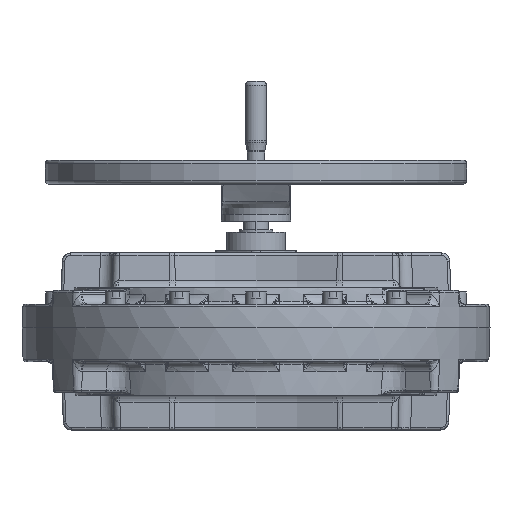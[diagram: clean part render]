
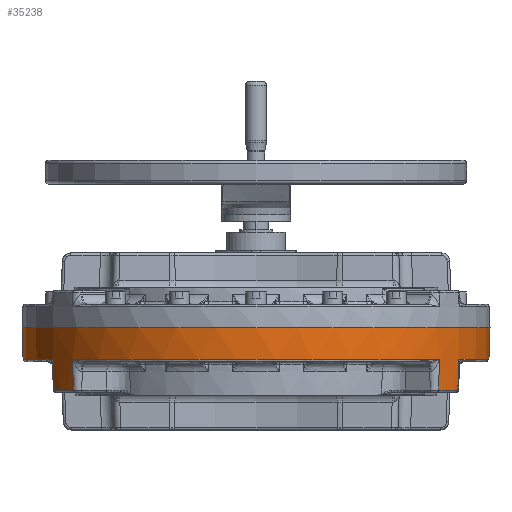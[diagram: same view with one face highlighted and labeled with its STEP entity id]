
A CAD part, front view. The second image highlights one B-rep face of the part: STEP entity #35238.
In plain terms, the highlighted conical face has half-angle 2 degrees and reference radius 277.5 mm.
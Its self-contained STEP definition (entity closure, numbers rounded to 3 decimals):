
#1571 = DIRECTION ( 'NONE',  ( -0.035, 0., 0.999 ) ) ;
#3071 = VERTEX_POINT ( 'NONE', #132261 ) ;
#3795 = CARTESIAN_POINT ( 'NONE',  ( 0., 0., -73.605 ) ) ;
#4066 = DIRECTION ( 'NONE',  ( 0., 0., 1. ) ) ;
#5234 = ORIENTED_EDGE ( 'NONE', *, *, #30541, .F. ) ;
#7003 = EDGE_CURVE ( 'NONE', #100986, #74260, #75587, .T. ) ;
#11104 = DIRECTION ( 'NONE',  ( 0.027, -0.022, 0.999 ) ) ;
#13936 = VERTEX_POINT ( 'NONE', #142328 ) ;
#14627 = CARTESIAN_POINT ( 'NONE',  ( 276.204, 0., -37.105 ) ) ;
#15903 = EDGE_CURVE ( 'NONE', #36439, #3071, #93753, .T. ) ;
#16589 = DIRECTION ( 'NONE',  ( 1., 0., 0. ) ) ;
#19128 = LINE ( 'NONE', #71537, #82451 ) ;
#20950 = ORIENTED_EDGE ( 'NONE', *, *, #118813, .T. ) ;
#26027 = VECTOR ( 'NONE', #1571, 1000. ) ;
#27186 = DIRECTION ( 'NONE',  ( 0., 0., 1. ) ) ;
#30098 = CARTESIAN_POINT ( 'NONE',  ( 277.5, 0., 0. ) ) ;
#30541 = EDGE_CURVE ( 'NONE', #97038, #138373, #119307, .T. ) ;
#31889 = CIRCLE ( 'NONE', #129823, 276.204 ) ;
#33323 = DIRECTION ( 'NONE',  ( 0.035, 0., 0.999 ) ) ;
#33805 = DIRECTION ( 'NONE',  ( 0., 0., 1. ) ) ;
#34813 = ORIENTED_EDGE ( 'NONE', *, *, #160055, .T. ) ;
#35238 = ADVANCED_FACE ( 'NONE', ( #146725 ), #130885, .T. ) ;
#36439 = VERTEX_POINT ( 'NONE', #131807 ) ;
#37651 = AXIS2_PLACEMENT_3D ( 'NONE', #65037, #153521, #77673 ) ;
#38086 = VERTEX_POINT ( 'NONE', #159735 ) ;
#38164 = LINE ( 'NONE', #59294, #105446 ) ;
#39499 = ORIENTED_EDGE ( 'NONE', *, *, #51143, .T. ) ;
#42124 = VECTOR ( 'NONE', #11104, 1000. ) ;
#43226 = AXIS2_PLACEMENT_3D ( 'NONE', #109573, #33805, #122288 ) ;
#44951 = DIRECTION ( 'NONE',  ( 0., 0., 1. ) ) ;
#50389 = ORIENTED_EDGE ( 'NONE', *, *, #79217, .T. ) ;
#51143 = EDGE_CURVE ( 'NONE', #118749, #138373, #38164, .T. ) ;
#54172 = VERTEX_POINT ( 'NONE', #63829 ) ;
#56663 = ORIENTED_EDGE ( 'NONE', *, *, #85286, .T. ) ;
#58982 = ORIENTED_EDGE ( 'NONE', *, *, #108569, .F. ) ;
#59294 = CARTESIAN_POINT ( 'NONE',  ( 277.5, 0., 0. ) ) ;
#59757 = EDGE_CURVE ( 'NONE', #36439, #161875, #109977, .T. ) ;
#63829 = CARTESIAN_POINT ( 'NONE',  ( 240.486, -135.851, -37.105 ) ) ;
#65037 = CARTESIAN_POINT ( 'NONE',  ( 0., 0., -73.605 ) ) ;
#66232 = DIRECTION ( 'NONE',  ( 0., 0., 1. ) ) ;
#71537 = CARTESIAN_POINT ( 'NONE',  ( 241.614, -136.488, 0. ) ) ;
#72682 = AXIS2_PLACEMENT_3D ( 'NONE', #94135, #44951, #95752 ) ;
#74260 = VERTEX_POINT ( 'NONE', #154266 ) ;
#75587 = LINE ( 'NONE', #162705, #42124 ) ;
#76214 = VECTOR ( 'NONE', #158555, 1000. ) ;
#77018 = ORIENTED_EDGE ( 'NONE', *, *, #59757, .F. ) ;
#77354 = CARTESIAN_POINT ( 'NONE',  ( -277.5, 0., 0. ) ) ;
#77673 = DIRECTION ( 'NONE',  ( 1., 0., 0. ) ) ;
#79217 = EDGE_CURVE ( 'NONE', #38086, #54172, #19128, .T. ) ;
#79878 = CARTESIAN_POINT ( 'NONE',  ( 0., 0., -37.105 ) ) ;
#82451 = VECTOR ( 'NONE', #84783, 1000. ) ;
#82862 = EDGE_CURVE ( 'NONE', #100986, #38086, #87813, .T. ) ;
#84783 = DIRECTION ( 'NONE',  ( 0.03, -0.017, 0.999 ) ) ;
#85286 = EDGE_CURVE ( 'NONE', #3071, #103352, #152540, .T. ) ;
#85735 = AXIS2_PLACEMENT_3D ( 'NONE', #102974, #27186, #115761 ) ;
#87813 = CIRCLE ( 'NONE', #140138, 274.93 ) ;
#90983 = CARTESIAN_POINT ( 'NONE',  ( -218.56, -170.99, 0. ) ) ;
#92333 = DIRECTION ( 'NONE',  ( 0., 0., 1. ) ) ;
#92622 = DIRECTION ( 'NONE',  ( 1., 0., 0. ) ) ;
#93753 = CIRCLE ( 'NONE', #37651, 274.93 ) ;
#94135 = CARTESIAN_POINT ( 'NONE',  ( 0., 0., 0. ) ) ;
#95752 = DIRECTION ( 'NONE',  ( -1., 0., 0. ) ) ;
#97038 = VERTEX_POINT ( 'NONE', #127195 ) ;
#99826 = ORIENTED_EDGE ( 'NONE', *, *, #82862, .T. ) ;
#100986 = VERTEX_POINT ( 'NONE', #141595 ) ;
#101975 = CARTESIAN_POINT ( 'NONE',  ( -240.486, -135.851, -37.105 ) ) ;
#102974 = CARTESIAN_POINT ( 'NONE',  ( 0., 0., -37.105 ) ) ;
#103352 = VERTEX_POINT ( 'NONE', #153857 ) ;
#103788 = DIRECTION ( 'NONE',  ( -0.027, -0.022, 0.999 ) ) ;
#105446 = VECTOR ( 'NONE', #33323, 1000. ) ;
#107378 = ORIENTED_EDGE ( 'NONE', *, *, #15903, .T. ) ;
#108569 = EDGE_CURVE ( 'NONE', #13936, #97038, #123008, .T. ) ;
#109573 = CARTESIAN_POINT ( 'NONE',  ( 0., 0., 0. ) ) ;
#109977 = LINE ( 'NONE', #119975, #76214 ) ;
#115761 = DIRECTION ( 'NONE',  ( 1., 0., 0. ) ) ;
#117094 = ORIENTED_EDGE ( 'NONE', *, *, #7003, .F. ) ;
#118749 = VERTEX_POINT ( 'NONE', #14627 ) ;
#118813 = EDGE_CURVE ( 'NONE', #103352, #74260, #31889, .T. ) ;
#119307 = CIRCLE ( 'NONE', #43226, 277.5 ) ;
#119975 = CARTESIAN_POINT ( 'NONE',  ( -241.614, -136.488, 0. ) ) ;
#120687 = CIRCLE ( 'NONE', #137589, 276.204 ) ;
#122288 = DIRECTION ( 'NONE',  ( 1., 0., 0. ) ) ;
#123008 = LINE ( 'NONE', #77354, #26027 ) ;
#124102 = EDGE_LOOP ( 'NONE', ( #34813, #39499, #5234, #58982, #125422, #77018, #107378, #56663, #20950, #117094, #99826, #50389 ) ) ;
#125422 = ORIENTED_EDGE ( 'NONE', *, *, #156625, .T. ) ;
#127195 = CARTESIAN_POINT ( 'NONE',  ( -277.5, 0., 0. ) ) ;
#129823 = AXIS2_PLACEMENT_3D ( 'NONE', #79878, #4066, #92622 ) ;
#130885 = CONICAL_SURFACE ( 'NONE', #72682, 277.5, 0.035 ) ;
#131807 = CARTESIAN_POINT ( 'NONE',  ( -239.376, -135.224, -73.605 ) ) ;
#132261 = CARTESIAN_POINT ( 'NONE',  ( -216.536, -169.406, -73.605 ) ) ;
#137589 = AXIS2_PLACEMENT_3D ( 'NONE', #141970, #66232, #154699 ) ;
#138373 = VERTEX_POINT ( 'NONE', #30098 ) ;
#140138 = AXIS2_PLACEMENT_3D ( 'NONE', #3795, #92333, #16589 ) ;
#141595 = CARTESIAN_POINT ( 'NONE',  ( 216.536, -169.406, -73.605 ) ) ;
#141970 = CARTESIAN_POINT ( 'NONE',  ( 0., 0., -37.105 ) ) ;
#142328 = CARTESIAN_POINT ( 'NONE',  ( -276.204, 0., -37.105 ) ) ;
#146725 = FACE_OUTER_BOUND ( 'NONE', #124102, .T. ) ;
#148552 = VECTOR ( 'NONE', #103788, 1000. ) ;
#152540 = LINE ( 'NONE', #90983, #148552 ) ;
#153521 = DIRECTION ( 'NONE',  ( 0., 0., 1. ) ) ;
#153659 = CIRCLE ( 'NONE', #85735, 276.204 ) ;
#153857 = CARTESIAN_POINT ( 'NONE',  ( -217.54, -170.192, -37.105 ) ) ;
#154266 = CARTESIAN_POINT ( 'NONE',  ( 217.54, -170.192, -37.105 ) ) ;
#154699 = DIRECTION ( 'NONE',  ( 1., 0., 0. ) ) ;
#156625 = EDGE_CURVE ( 'NONE', #13936, #161875, #120687, .T. ) ;
#158555 = DIRECTION ( 'NONE',  ( -0.03, -0.017, 0.999 ) ) ;
#159735 = CARTESIAN_POINT ( 'NONE',  ( 239.376, -135.224, -73.605 ) ) ;
#160055 = EDGE_CURVE ( 'NONE', #54172, #118749, #153659, .T. ) ;
#161875 = VERTEX_POINT ( 'NONE', #101975 ) ;
#162705 = CARTESIAN_POINT ( 'NONE',  ( 218.56, -170.99, 0. ) ) ;
